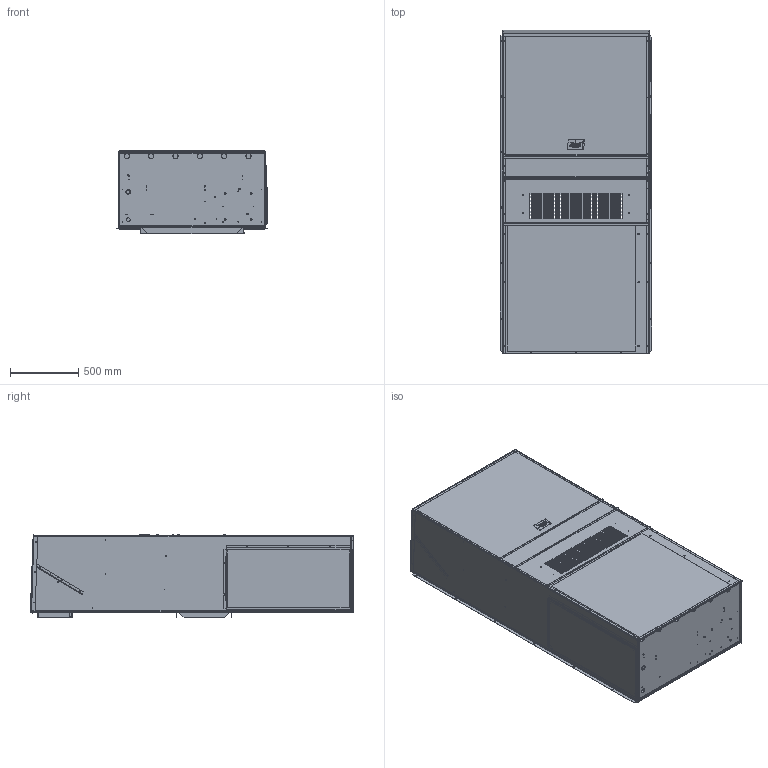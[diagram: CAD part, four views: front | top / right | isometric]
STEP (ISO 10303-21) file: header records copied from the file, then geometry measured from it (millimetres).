
FILE_DESCRIPTION (( 'STEP AP203' ), '1' );
FILE_NAME ('STEP_1200.STEP', '2016-06-24T20:45:47', ( 'BMC' ), ( 'Bard Manufacturing Co., Inc.' ), 'SwSTEP 2.0', 'SolidWorks 2016', '' );
FILE_SCHEMA (( 'CONFIG_CONTROL_DESIGN' ));
Products named in the file (1): STEP_1200
Bounding box: 1110.85 x 2364.92 x 612.89 mm (x, y, z)
Volume: 9315895 mm3; surface area: 19272487.2 mm2
Topology: 51 solids, 51 shells, 4081 faces, 10927 edges, 7019 vertices
Faces by surface type: plane 1777, cylinder 1285, torus 815, bspline 170, sphere 22, cone 12
Entity records: 151680 total; most frequent: CARTESIAN_POINT 46481, DIRECTION 22101, ORIENTED_EDGE 21834, EDGE_CURVE 10917, AXIS2_PLACEMENT_3D 8208, VERTEX_POINT 7017, LINE 5685, VECTOR 5685
